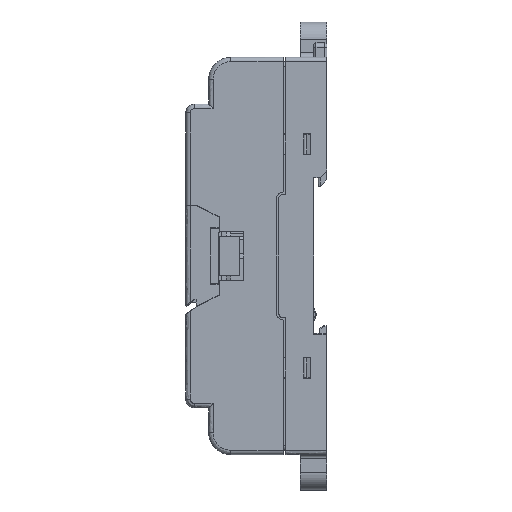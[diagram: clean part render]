
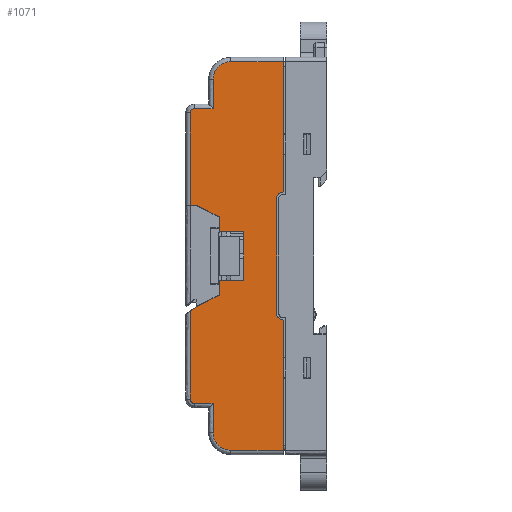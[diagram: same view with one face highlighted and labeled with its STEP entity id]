
A CAD part, left-side view. The second image highlights one B-rep face of the part: STEP entity #1071.
In plain terms, the highlighted planar face has unit normal (-1, 0, 0).
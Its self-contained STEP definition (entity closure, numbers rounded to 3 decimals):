
#1071=ADVANCED_FACE('',(#3072),#30632,.T.);
#3072=FACE_OUTER_BOUND('',#4930,.T.);
#4930=EDGE_LOOP('',(#11197,#11198,#11199,#11200,#11201,#11202,#11203,#11204,
#11205,#11206,#11207,#11208,#11209,#11210,#11211,#11212,#11213,#11214,#11215,
#11216,#11217,#11218,#11219,#11220,#11221,#11222));
#11197=ORIENTED_EDGE('',*,*,#18747,.T.);
#11198=ORIENTED_EDGE('',*,*,#18766,.T.);
#11199=ORIENTED_EDGE('',*,*,#18797,.T.);
#11200=ORIENTED_EDGE('',*,*,#18804,.T.);
#11201=ORIENTED_EDGE('',*,*,#18765,.T.);
#11202=ORIENTED_EDGE('',*,*,#18764,.T.);
#11203=ORIENTED_EDGE('',*,*,#18763,.T.);
#11204=ORIENTED_EDGE('',*,*,#18762,.T.);
#11205=ORIENTED_EDGE('',*,*,#18761,.T.);
#11206=ORIENTED_EDGE('',*,*,#18760,.T.);
#11207=ORIENTED_EDGE('',*,*,#18759,.T.);
#11208=ORIENTED_EDGE('',*,*,#21050,.T.);
#11209=ORIENTED_EDGE('',*,*,#18758,.T.);
#11210=ORIENTED_EDGE('',*,*,#21051,.T.);
#11211=ORIENTED_EDGE('',*,*,#18757,.T.);
#11212=ORIENTED_EDGE('',*,*,#18756,.T.);
#11213=ORIENTED_EDGE('',*,*,#18755,.T.);
#11214=ORIENTED_EDGE('',*,*,#18754,.T.);
#11215=ORIENTED_EDGE('',*,*,#18753,.T.);
#11216=ORIENTED_EDGE('',*,*,#18752,.T.);
#11217=ORIENTED_EDGE('',*,*,#18751,.T.);
#11218=ORIENTED_EDGE('',*,*,#18750,.T.);
#11219=ORIENTED_EDGE('',*,*,#20899,.T.);
#11220=ORIENTED_EDGE('',*,*,#18749,.T.);
#11221=ORIENTED_EDGE('',*,*,#18738,.T.);
#11222=ORIENTED_EDGE('',*,*,#18748,.T.);
#18738=EDGE_CURVE('',#27946,#27947,#24063,.T.);
#18747=EDGE_CURVE('',#27953,#27954,#24072,.T.);
#18748=EDGE_CURVE('',#27947,#27953,#24073,.T.);
#18749=EDGE_CURVE('',#27955,#27946,#24074,.T.);
#18750=EDGE_CURVE('',#27957,#27956,#24075,.T.);
#18751=EDGE_CURVE('',#27958,#27957,#24076,.T.);
#18752=EDGE_CURVE('',#27959,#27958,#21684,.T.);
#18753=EDGE_CURVE('',#27960,#27959,#24077,.T.);
#18754=EDGE_CURVE('',#27961,#27960,#24078,.T.);
#18755=EDGE_CURVE('',#27962,#27961,#21685,.T.);
#18756=EDGE_CURVE('',#27963,#27962,#24079,.T.);
#18757=EDGE_CURVE('',#27964,#27963,#24080,.T.);
#18758=EDGE_CURVE('',#27966,#27965,#24081,.T.);
#18759=EDGE_CURVE('',#27968,#27967,#24082,.T.);
#18760=EDGE_CURVE('',#27969,#27968,#24083,.T.);
#18761=EDGE_CURVE('',#27970,#27969,#21686,.T.);
#18762=EDGE_CURVE('',#27971,#27970,#24084,.T.);
#18763=EDGE_CURVE('',#27972,#27971,#24085,.T.);
#18764=EDGE_CURVE('',#27973,#27972,#21687,.T.);
#18765=EDGE_CURVE('',#27974,#27973,#24086,.T.);
#18766=EDGE_CURVE('',#27954,#27976,#24087,.T.);
#18797=EDGE_CURVE('',#27976,#27975,#24118,.T.);
#18804=EDGE_CURVE('',#27975,#27974,#24125,.T.);
#20899=EDGE_CURVE('',#27956,#27955,#26042,.T.);
#21050=EDGE_CURVE('',#27967,#27966,#21887,.T.);
#21051=EDGE_CURVE('',#27965,#27964,#21888,.T.);
#21684=(
BOUNDED_CURVE()
B_SPLINE_CURVE(2,(#59592,#59593,#59594),.UNSPECIFIED.,.F.,.F.)
B_SPLINE_CURVE_WITH_KNOTS((3,3),(-1.571,0.),.UNSPECIFIED.)
CURVE()
GEOMETRIC_REPRESENTATION_ITEM()
RATIONAL_B_SPLINE_CURVE((1.,0.707,1.))
REPRESENTATION_ITEM('')
);
#21685=(
BOUNDED_CURVE()
B_SPLINE_CURVE(2,(#59599,#59600,#59601),.UNSPECIFIED.,.F.,.F.)
B_SPLINE_CURVE_WITH_KNOTS((3,3),(-6.283,0.),.UNSPECIFIED.)
CURVE()
GEOMETRIC_REPRESENTATION_ITEM()
RATIONAL_B_SPLINE_CURVE((1.,0.707,1.))
REPRESENTATION_ITEM('')
);
#21686=(
BOUNDED_CURVE()
B_SPLINE_CURVE(2,(#59612,#59613,#59614),.UNSPECIFIED.,.F.,.F.)
B_SPLINE_CURVE_WITH_KNOTS((3,3),(-6.283,0.),.UNSPECIFIED.)
CURVE()
GEOMETRIC_REPRESENTATION_ITEM()
RATIONAL_B_SPLINE_CURVE((1.,0.707,1.))
REPRESENTATION_ITEM('')
);
#21687=(
BOUNDED_CURVE()
B_SPLINE_CURVE(2,(#59619,#59620,#59621),.UNSPECIFIED.,.F.,.F.)
B_SPLINE_CURVE_WITH_KNOTS((3,3),(-1.571,0.),.UNSPECIFIED.)
CURVE()
GEOMETRIC_REPRESENTATION_ITEM()
RATIONAL_B_SPLINE_CURVE((1.,0.707,1.))
REPRESENTATION_ITEM('')
);
#21887=(
BOUNDED_CURVE()
B_SPLINE_CURVE(2,(#64673,#64674,#64675),.UNSPECIFIED.,.F.,.F.)
B_SPLINE_CURVE_WITH_KNOTS((3,3),(0.,2.356),.UNSPECIFIED.)
CURVE()
GEOMETRIC_REPRESENTATION_ITEM()
RATIONAL_B_SPLINE_CURVE((1.,0.707,1.))
REPRESENTATION_ITEM('')
);
#21888=(
BOUNDED_CURVE()
B_SPLINE_CURVE(2,(#64676,#64677,#64678),.UNSPECIFIED.,.F.,.F.)
B_SPLINE_CURVE_WITH_KNOTS((3,3),(0.,2.356),.UNSPECIFIED.)
CURVE()
GEOMETRIC_REPRESENTATION_ITEM()
RATIONAL_B_SPLINE_CURVE((1.,0.707,1.))
REPRESENTATION_ITEM('')
);
#24063=B_SPLINE_CURVE_WITH_KNOTS('',1,(#59564,#59565),.UNSPECIFIED.,.F.,
 .F.,(2,2),(0.,5.6),.UNSPECIFIED.);
#24072=B_SPLINE_CURVE_WITH_KNOTS('',1,(#59582,#59583),.UNSPECIFIED.,.F.,
 .F.,(2,2),(-5.6,0.),.UNSPECIFIED.);
#24073=B_SPLINE_CURVE_WITH_KNOTS('',1,(#59584,#59585),.UNSPECIFIED.,.F.,
 .F.,(2,2),(-11.,0.),.UNSPECIFIED.);
#24074=B_SPLINE_CURVE_WITH_KNOTS('',1,(#59586,#59587),.UNSPECIFIED.,.F.,
 .F.,(2,2),(-3.4,0.),.UNSPECIFIED.);
#24075=B_SPLINE_CURVE_WITH_KNOTS('',1,(#59588,#59589),.UNSPECIFIED.,.F.,
 .F.,(2,2),(-1.4,0.),.UNSPECIFIED.);
#24076=B_SPLINE_CURVE_WITH_KNOTS('',1,(#59590,#59591),.UNSPECIFIED.,.F.,
 .F.,(2,2),(-20.9,0.),.UNSPECIFIED.);
#24077=B_SPLINE_CURVE_WITH_KNOTS('',1,(#59595,#59596),.UNSPECIFIED.,.F.,
 .F.,(2,2),(-4.2,0.),.UNSPECIFIED.);
#24078=B_SPLINE_CURVE_WITH_KNOTS('',1,(#59597,#59598),.UNSPECIFIED.,.F.,
 .F.,(2,2),(-6.6,0.),.UNSPECIFIED.);
#24079=B_SPLINE_CURVE_WITH_KNOTS('',1,(#59602,#59603),.UNSPECIFIED.,.F.,
 .F.,(2,2),(-11.9,0.),.UNSPECIFIED.);
#24080=B_SPLINE_CURVE_WITH_KNOTS('',1,(#59604,#59605),.UNSPECIFIED.,.F.,
 .F.,(2,2),(-29.5,0.),.UNSPECIFIED.);
#24081=B_SPLINE_CURVE_WITH_KNOTS('',1,(#59606,#59607),.UNSPECIFIED.,.F.,
 .F.,(2,2),(-26.,0.),.UNSPECIFIED.);
#24082=B_SPLINE_CURVE_WITH_KNOTS('',1,(#59608,#59609),.UNSPECIFIED.,.F.,
 .F.,(2,2),(-29.5,0.),.UNSPECIFIED.);
#24083=B_SPLINE_CURVE_WITH_KNOTS('',1,(#59610,#59611),.UNSPECIFIED.,.F.,
 .F.,(2,2),(-11.9,0.),.UNSPECIFIED.);
#24084=B_SPLINE_CURVE_WITH_KNOTS('',1,(#59615,#59616),.UNSPECIFIED.,.F.,
 .F.,(2,2),(-6.6,0.),.UNSPECIFIED.);
#24085=B_SPLINE_CURVE_WITH_KNOTS('',1,(#59617,#59618),.UNSPECIFIED.,.F.,
 .F.,(2,2),(-4.2,0.),.UNSPECIFIED.);
#24086=B_SPLINE_CURVE_WITH_KNOTS('',1,(#59622,#59623),.UNSPECIFIED.,.F.,
 .F.,(2,2),(-19.908,0.),.UNSPECIFIED.);
#24087=B_SPLINE_CURVE_WITH_KNOTS('',1,(#59624,#59625),.UNSPECIFIED.,.F.,
 .F.,(2,2),(-3.4,0.),.UNSPECIFIED.);
#24118=B_SPLINE_CURVE_WITH_KNOTS('',1,(#59686,#59687),.UNSPECIFIED.,.F.,
 .F.,(2,2),(0.,5.814),.UNSPECIFIED.);
#24125=B_SPLINE_CURVE_WITH_KNOTS('',1,(#59706,#59707),.UNSPECIFIED.,.F.,
 .F.,(2,2),(0.,1.716),.UNSPECIFIED.);
#26042=B_SPLINE_CURVE_WITH_KNOTS('',1,(#64326,#64327),.UNSPECIFIED.,.F.,
 .F.,(2,2),(0.,5.814),.UNSPECIFIED.);
#27946=VERTEX_POINT('',#57950);
#27947=VERTEX_POINT('',#57951);
#27953=VERTEX_POINT('',#57957);
#27954=VERTEX_POINT('',#57958);
#27955=VERTEX_POINT('',#57959);
#27956=VERTEX_POINT('',#57960);
#27957=VERTEX_POINT('',#57961);
#27958=VERTEX_POINT('',#57962);
#27959=VERTEX_POINT('',#57963);
#27960=VERTEX_POINT('',#57964);
#27961=VERTEX_POINT('',#57965);
#27962=VERTEX_POINT('',#57966);
#27963=VERTEX_POINT('',#57967);
#27964=VERTEX_POINT('',#57968);
#27965=VERTEX_POINT('',#57969);
#27966=VERTEX_POINT('',#57970);
#27967=VERTEX_POINT('',#57971);
#27968=VERTEX_POINT('',#57972);
#27969=VERTEX_POINT('',#57973);
#27970=VERTEX_POINT('',#57974);
#27971=VERTEX_POINT('',#57975);
#27972=VERTEX_POINT('',#57976);
#27973=VERTEX_POINT('',#57977);
#27974=VERTEX_POINT('',#57978);
#27975=VERTEX_POINT('',#57979);
#27976=VERTEX_POINT('',#57980);
#30632=PLANE('',#32031);
#32031=AXIS2_PLACEMENT_3D('',#54538,#33327,$);
#33327=DIRECTION('',(-1.,0.,0.));
#54538=CARTESIAN_POINT('',(-30.,-1.744,-52.934));
#57950=CARTESIAN_POINT('',(-30.,15.,5.5));
#57951=CARTESIAN_POINT('',(-30.,9.4,5.5));
#57957=CARTESIAN_POINT('',(-30.,9.4,-5.5));
#57958=CARTESIAN_POINT('',(-30.,15.,-5.5));
#57959=CARTESIAN_POINT('',(-30.,15.,8.9));
#57960=CARTESIAN_POINT('',(-30.,20.2,11.5));
#57961=CARTESIAN_POINT('',(-30.,21.6,11.5));
#57962=CARTESIAN_POINT('',(-30.,21.6,32.4));
#57963=CARTESIAN_POINT('',(-30.,20.6,33.4));
#57964=CARTESIAN_POINT('',(-30.,16.4,33.4));
#57965=CARTESIAN_POINT('',(-30.,16.4,40.));
#57966=CARTESIAN_POINT('',(-30.,12.4,44.));
#57967=CARTESIAN_POINT('',(-30.,0.5,44.));
#57968=CARTESIAN_POINT('',(-30.,0.5,14.5));
#57969=CARTESIAN_POINT('',(-30.,2.,13.));
#57970=CARTESIAN_POINT('',(-30.,2.,-13.));
#57971=CARTESIAN_POINT('',(-30.,0.5,-14.5));
#57972=CARTESIAN_POINT('',(-30.,0.5,-44.));
#57973=CARTESIAN_POINT('',(-30.,12.4,-44.));
#57974=CARTESIAN_POINT('',(-30.,16.4,-40.));
#57975=CARTESIAN_POINT('',(-30.,16.4,-33.4));
#57976=CARTESIAN_POINT('',(-30.,20.6,-33.4));
#57977=CARTESIAN_POINT('',(-30.,21.6,-32.4));
#57978=CARTESIAN_POINT('',(-30.,21.6,-12.492));
#57979=CARTESIAN_POINT('',(-30.,20.2,-11.5));
#57980=CARTESIAN_POINT('',(-30.,15.,-8.9));
#59564=CARTESIAN_POINT('',(-30.,15.,5.5));
#59565=CARTESIAN_POINT('',(-30.,9.4,5.5));
#59582=CARTESIAN_POINT('',(-30.,9.4,-5.5));
#59583=CARTESIAN_POINT('',(-30.,15.,-5.5));
#59584=CARTESIAN_POINT('',(-30.,9.4,5.5));
#59585=CARTESIAN_POINT('',(-30.,9.4,-5.5));
#59586=CARTESIAN_POINT('',(-30.,15.,8.9));
#59587=CARTESIAN_POINT('',(-30.,15.,5.5));
#59588=CARTESIAN_POINT('',(-30.,21.6,11.5));
#59589=CARTESIAN_POINT('',(-30.,20.2,11.5));
#59590=CARTESIAN_POINT('',(-30.,21.6,32.4));
#59591=CARTESIAN_POINT('',(-30.,21.6,11.5));
#59592=CARTESIAN_POINT('',(-30.,20.6,33.4));
#59593=CARTESIAN_POINT('',(-30.,21.6,33.4));
#59594=CARTESIAN_POINT('',(-30.,21.6,32.4));
#59595=CARTESIAN_POINT('',(-30.,16.4,33.4));
#59596=CARTESIAN_POINT('',(-30.,20.6,33.4));
#59597=CARTESIAN_POINT('',(-30.,16.4,40.));
#59598=CARTESIAN_POINT('',(-30.,16.4,33.4));
#59599=CARTESIAN_POINT('',(-30.,12.4,44.));
#59600=CARTESIAN_POINT('',(-30.,16.4,44.));
#59601=CARTESIAN_POINT('',(-30.,16.4,40.));
#59602=CARTESIAN_POINT('',(-30.,0.5,44.));
#59603=CARTESIAN_POINT('',(-30.,12.4,44.));
#59604=CARTESIAN_POINT('',(-30.,0.5,14.5));
#59605=CARTESIAN_POINT('',(-30.,0.5,44.));
#59606=CARTESIAN_POINT('',(-30.,2.,-13.));
#59607=CARTESIAN_POINT('',(-30.,2.,13.));
#59608=CARTESIAN_POINT('',(-30.,0.5,-44.));
#59609=CARTESIAN_POINT('',(-30.,0.5,-14.5));
#59610=CARTESIAN_POINT('',(-30.,12.4,-44.));
#59611=CARTESIAN_POINT('',(-30.,0.5,-44.));
#59612=CARTESIAN_POINT('',(-30.,16.4,-40.));
#59613=CARTESIAN_POINT('',(-30.,16.4,-44.));
#59614=CARTESIAN_POINT('',(-30.,12.4,-44.));
#59615=CARTESIAN_POINT('',(-30.,16.4,-33.4));
#59616=CARTESIAN_POINT('',(-30.,16.4,-40.));
#59617=CARTESIAN_POINT('',(-30.,20.6,-33.4));
#59618=CARTESIAN_POINT('',(-30.,16.4,-33.4));
#59619=CARTESIAN_POINT('',(-30.,21.6,-32.4));
#59620=CARTESIAN_POINT('',(-30.,21.6,-33.4));
#59621=CARTESIAN_POINT('',(-30.,20.6,-33.4));
#59622=CARTESIAN_POINT('',(-30.,21.6,-12.492));
#59623=CARTESIAN_POINT('',(-30.,21.6,-32.4));
#59624=CARTESIAN_POINT('',(-30.,15.,-5.5));
#59625=CARTESIAN_POINT('',(-30.,15.,-8.9));
#59686=CARTESIAN_POINT('',(-30.,15.,-8.9));
#59687=CARTESIAN_POINT('',(-30.,20.2,-11.5));
#59706=CARTESIAN_POINT('',(-30.,20.2,-11.5));
#59707=CARTESIAN_POINT('',(-30.,21.6,-12.492));
#64326=CARTESIAN_POINT('',(-30.,20.2,11.5));
#64327=CARTESIAN_POINT('',(-30.,15.,8.9));
#64673=CARTESIAN_POINT('',(-30.,0.5,-14.5));
#64674=CARTESIAN_POINT('',(-30.,2.,-14.5));
#64675=CARTESIAN_POINT('',(-30.,2.,-13.));
#64676=CARTESIAN_POINT('',(-30.,2.,13.));
#64677=CARTESIAN_POINT('',(-30.,2.,14.5));
#64678=CARTESIAN_POINT('',(-30.,0.5,14.5));
